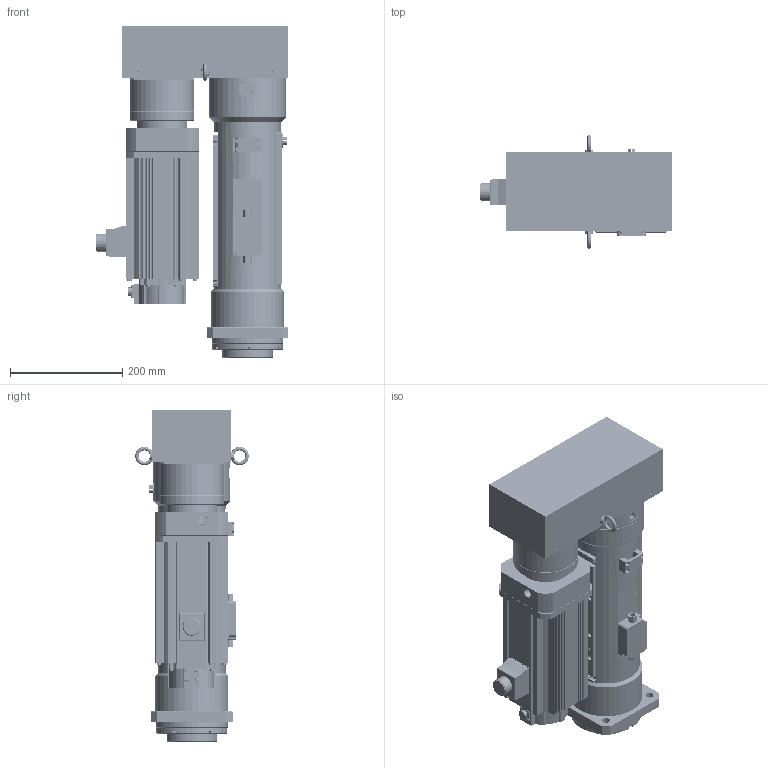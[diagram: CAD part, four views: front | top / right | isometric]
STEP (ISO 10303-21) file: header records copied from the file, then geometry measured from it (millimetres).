
FILE_DESCRIPTION( ('This file contains a STEP AP42 implementation' ,'as created by ZW3D STEP Interface translator.') ,'2;1' );
FILE_NAME( 'OACIS-DC-P060-P070-300-140-A6V200_V20.51.stp' ,'26 424.13 212', (''), ('ZWCAD Software Co.'), 'Version 1.0', 'ZW3D to STEP translator', '' );
FILE_SCHEMA(('AUTOMOTIVE_DESIGN { 1 0 10303 214 1 1 1 1 }'));
Length unit declared in the file: millimetre
Products named in the file (1): 0
Bounding box: 342.5 x 202.25 x 591 mm (x, y, z)
Volume: 12024746.6 mm3; surface area: 1898904.9 mm2
Topology: 55 solids, 55 shells, 3362 faces, 8626 edges, 5522 vertices
Faces by surface type: cylinder 1649, plane 1236, cone 343, torus 101, bspline 29, sphere 4
Full cylindrical faces by diameter (mm): 1.567 x4, 2 x1, 2.459 x1, 3.3 x66, 4.2 x4, 4.3 x19, 4.5 x14, 4.917 x20, 5 x1, 5.3 x4, 5.5 x4, 6 x8, 6.5 x4, 6.647 x6, 6.8 x41, 7 x4, 8 x21, 8.4 x8, 8.5 x4, 9 x26, 9.5 x4, 9.78 x8, 10 x3, 10.1 x4, 10.106 x1, 10.2 x16, 10.5 x4, 12 x1, 14 x4, 14.8 x1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
Entity records: 118464 total; most frequent: CARTESIAN_POINT 26972, DIRECTION 19176, ORIENTED_EDGE 17056, EDGE_CURVE 8528, AXIS2_PLACEMENT_3D 7637, VERTEX_POINT 5519, CIRCLE 4284, EDGE_LOOP 3977
